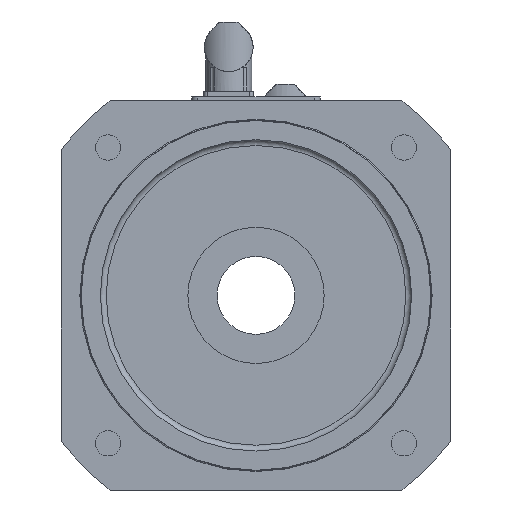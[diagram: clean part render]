
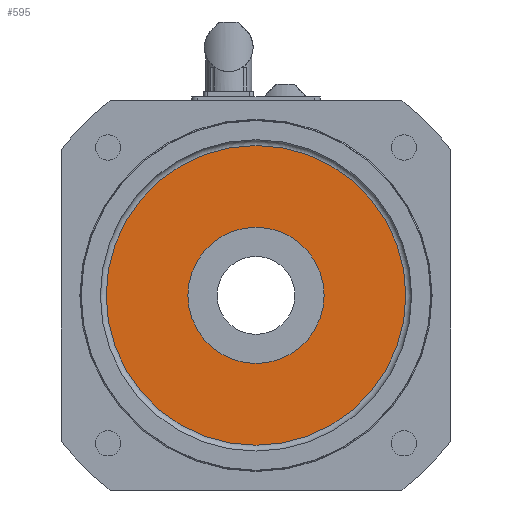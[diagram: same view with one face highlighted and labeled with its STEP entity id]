
A CAD part, front view. The second image highlights one B-rep face of the part: STEP entity #595.
In plain terms, the highlighted planar face has unit normal (0, -1, 0).
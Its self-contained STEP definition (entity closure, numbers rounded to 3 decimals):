
#108=FACE_BOUND('',#1143,.T.);
#360=CIRCLE('',#4597,35.);
#361=CIRCLE('',#4598,77.);
#595=ADVANCED_FACE('',(#108,#896),#834,.F.);
#834=PLANE('',#4599);
#896=FACE_OUTER_BOUND('',#1144,.T.);
#1143=EDGE_LOOP('',(#1660));
#1144=EDGE_LOOP('',(#1661));
#1660=ORIENTED_EDGE('',*,*,#3430,.F.);
#1661=ORIENTED_EDGE('',*,*,#3431,.T.);
#2966=VERTEX_POINT('',#6525);
#2967=VERTEX_POINT('',#6527);
#3430=EDGE_CURVE('',#2966,#2966,#360,.T.);
#3431=EDGE_CURVE('',#2967,#2967,#361,.T.);
#4597=AXIS2_PLACEMENT_3D('',#6524,#5188,#5189);
#4598=AXIS2_PLACEMENT_3D('',#6526,#5190,#5191);
#4599=AXIS2_PLACEMENT_3D('',#6528,#5192,#5193);
#5188=DIRECTION('',(0.,-1.,0.));
#5189=DIRECTION('',(0.,0.,-1.));
#5190=DIRECTION('',(0.,-1.,0.));
#5191=DIRECTION('',(0.,0.,1.));
#5192=DIRECTION('',(0.,1.,0.));
#5193=DIRECTION('',(0.,0.,1.));
#6524=CARTESIAN_POINT('',(65.,1.,65.));
#6525=CARTESIAN_POINT('',(65.,1.,30.));
#6526=CARTESIAN_POINT('',(65.,1.,65.));
#6527=CARTESIAN_POINT('',(65.,1.,142.));
#6528=CARTESIAN_POINT('',(65.,1.,65.));
